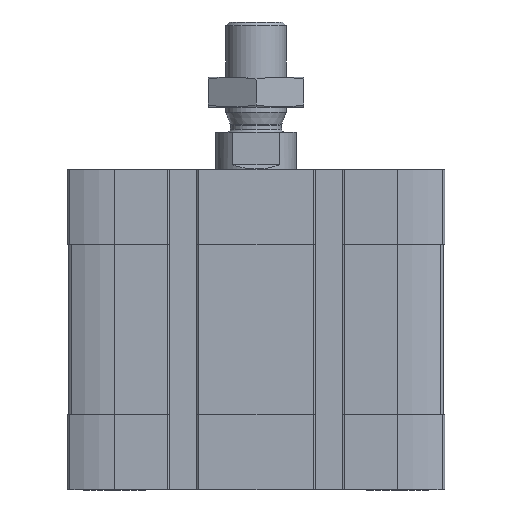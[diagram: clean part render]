
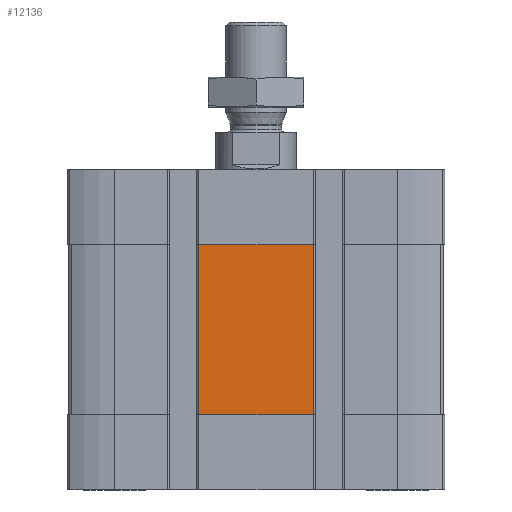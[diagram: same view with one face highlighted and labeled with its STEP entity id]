
A CAD part, front view. The second image highlights one B-rep face of the part: STEP entity #12136.
In plain terms, the highlighted planar face has unit normal (0, -1, 0).
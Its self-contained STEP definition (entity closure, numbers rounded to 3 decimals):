
#631 = EDGE_CURVE ( 'NONE', #11054, #14045, #15508, .T. ) ;
#1245 = LINE ( 'NONE', #12276, #7460 ) ;
#1884 = DIRECTION ( 'NONE',  ( 0., 0., -1. ) ) ;
#1934 = EDGE_CURVE ( 'NONE', #14751, #7237, #1245, .T. ) ;
#2577 = ORIENTED_EDGE ( 'NONE', *, *, #631, .T. ) ;
#3162 = PLANE ( 'NONE',  #11852 ) ;
#3206 = FACE_OUTER_BOUND ( 'NONE', #13023, .T. ) ;
#3641 = ORIENTED_EDGE ( 'NONE', *, *, #4298, .T. ) ;
#4298 = EDGE_CURVE ( 'NONE', #7237, #11054, #8855, .T. ) ;
#4407 = DIRECTION ( 'NONE',  ( 0., 0., -1. ) ) ;
#5276 = ORIENTED_EDGE ( 'NONE', *, *, #13887, .T. ) ;
#5478 = DIRECTION ( 'NONE',  ( 1., 0., 0. ) ) ;
#5709 = ORIENTED_EDGE ( 'NONE', *, *, #1934, .T. ) ;
#6751 = DIRECTION ( 'NONE',  ( -1., 0., 0. ) ) ;
#6878 = CARTESIAN_POINT ( 'NONE',  ( -11.4, -37.5, -49. ) ) ;
#7237 = VERTEX_POINT ( 'NONE', #12914 ) ;
#7460 = VECTOR ( 'NONE', #5478, 1000. ) ;
#8253 = VECTOR ( 'NONE', #6751, 1000. ) ;
#8414 = VECTOR ( 'NONE', #13202, 1000. ) ;
#8855 = LINE ( 'NONE', #10880, #8414 ) ;
#9487 = VECTOR ( 'NONE', #1884, 1000. ) ;
#9658 = CARTESIAN_POINT ( 'NONE',  ( -11.4, -37.5, -15. ) ) ;
#10575 = CARTESIAN_POINT ( 'NONE',  ( 11.4, -37.5, -15. ) ) ;
#10880 = CARTESIAN_POINT ( 'NONE',  ( 11.4, -37.5, -49. ) ) ;
#11054 = VERTEX_POINT ( 'NONE', #10575 ) ;
#11572 = CARTESIAN_POINT ( 'NONE',  ( 0., -37.5, -15. ) ) ;
#11796 = DIRECTION ( 'NONE',  ( 0., -1., 0. ) ) ;
#11852 = AXIS2_PLACEMENT_3D ( 'NONE', #14289, #11796, #4407 ) ;
#12136 = ADVANCED_FACE ( 'NONE', ( #3206 ), #3162, .T. ) ;
#12276 = CARTESIAN_POINT ( 'NONE',  ( -11.4, -37.5, -49. ) ) ;
#12736 = LINE ( 'NONE', #6878, #9487 ) ;
#12914 = CARTESIAN_POINT ( 'NONE',  ( 11.4, -37.5, -49. ) ) ;
#13023 = EDGE_LOOP ( 'NONE', ( #5709, #3641, #2577, #5276 ) ) ;
#13202 = DIRECTION ( 'NONE',  ( 0., 0., 1. ) ) ;
#13769 = CARTESIAN_POINT ( 'NONE',  ( -11.4, -37.5, -49. ) ) ;
#13887 = EDGE_CURVE ( 'NONE', #14045, #14751, #12736, .T. ) ;
#14045 = VERTEX_POINT ( 'NONE', #9658 ) ;
#14289 = CARTESIAN_POINT ( 'NONE',  ( -11.4, -37.5, -49. ) ) ;
#14751 = VERTEX_POINT ( 'NONE', #13769 ) ;
#15508 = LINE ( 'NONE', #11572, #8253 ) ;
